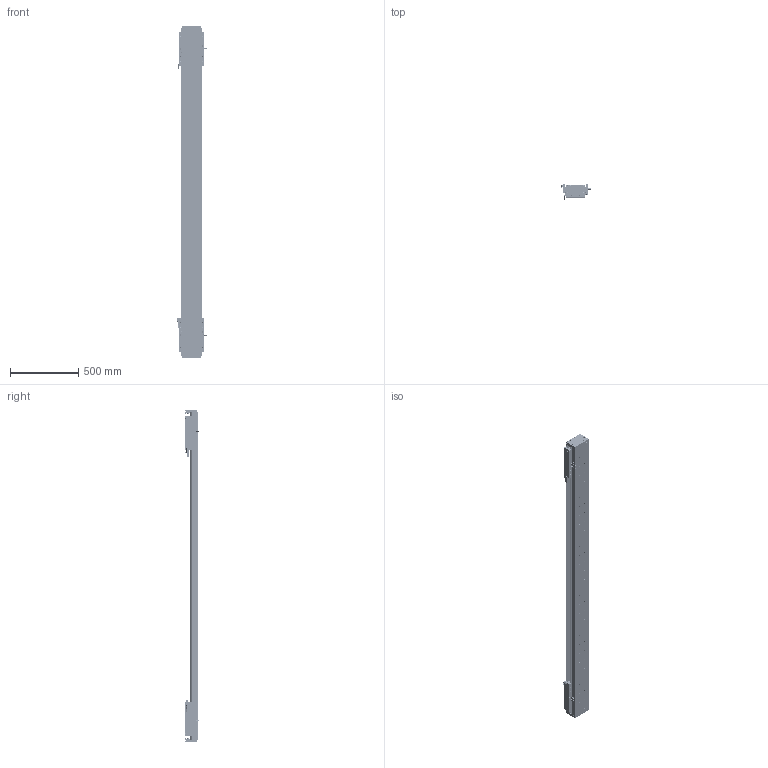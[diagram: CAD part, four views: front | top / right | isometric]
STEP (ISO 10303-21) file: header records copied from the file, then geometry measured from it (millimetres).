
FILE_DESCRIPTION (( 'STEP AP203' ), '1' );
FILE_NAME ('DA-C145-2-C3-T1820-C010-0.2 眻盄萇儂.STEP', '2025-08-13T10:24:29', ( '' ), ( '' ), 'SwSTEP 2.0', 'SolidWorks 2019', '' );
FILE_SCHEMA (( 'CONFIG_CONTROL_DESIGN' ));
Length unit declared in the file: millimetre
Products named in the file (38): 葩璃 PM-Y65^DA-C145-2-C3-T-C010-0.2; 复件 DA145-DG 钢带端盖^复件 CU145 钢带组件_DA-C145-2-C3-T-C010-0.2; 葩璃 DA95-HXJ-00 遣喳砎蝶^DA-C145-2-C3-T-C010-0.2; 葩璃 DA95-GT-T-00^IU-CU145-L 菁釱絳寢; DKW168-HXJ-ZJ-00 笢潔滅袉砎蝶; 葩璃 CKMA01-W060-TRL^DA-C145-2-C3-T-C010-0.2; IU-CU145-L 菁釱絳寢; 复件 半圆头内六角螺钉 M3×6^CU145-W 滚珠滑台; 复件 DA145-C3-YB-A-00 压板A^CU145-W 滚珠滑台; 葩璃 CKM03-W060-C1C2-TP-0.2^DA-C145-2-C3-T-C010-0.2; DKW-KGZ-ZJ-00 中间光电开关支架; TAY01-M8; CU145-W-00 珨极趙賑雄怢啣; 葩璃 XD-U-02L 棠掑喜^DA-C145-2-C3-T-C010-0.2; CU145-W 幗紩賑怢; 葩璃 DA145-C3-DP-A-00 菜えA^CU145-W 幗紩賑怢; DKW-GYP-ZJ-00 笢潔嫖萇覜茼え; 复件 DA95-DB-00  挡板^CU145-W 滚珠滑台; 复件 纯铜油杯 6x6mm^CU145-W 滚珠滑台; DA-C145-2-C3-T1820-C010-0.2 眻盄萇儂; 复件 DA95-HK-GT-00 滑块钢轨^CU145-W-00 一体化滑动台板; 葩璃 PM-T45^DA-C145-2-C3-T-C010-0.2; 66245-CU145-HT-W-00 賑雄怢啣(3D芞祧)(00); CU145-W 幗紩賑怢-1; 复件 DA145-GYP-00 光电感应片^DA-C145-2-C3-T-C010-0.2; 复件 内六角平端紧定螺钉 GB.T77-2000 M5×10^CU145-W 滚珠滑台; IU-CU145-L-00 菁釱(L2400); 葩璃 DMA-010-0.2 黍杅芛^DA-C145-2-C3-T-C010-0.2; 复件 DA145-C3-DK-00 挡块^CU145-W 滚珠滑台; 葩璃 DA145-C3-DP-B-00 菜えB^CU145-W 幗紩賑怢; 葩璃 鞠褒情蹟譫 M3^DA-C145-2-C3-T-C010-0.2; 葩璃 CU145 詩湍郪璃^DA-C145-2-C3-T-C010-0.2; 复件 DA146 钢带拉块^复件 CU145 钢带组件_DA-C145-2-C3-T-C010-0.2; 复件 DA95-MFP-01 密封片^CU145-W 滚珠滑台; 复件 DA146 钢带垫块^复件 CU145 钢带组件_DA-C145-2-C3-T-C010-0.2; CU145-W-00 珨极趙賑雄怢啣-1; 复件 DA145 钢带^复件 CU145 钢带组件_DA-C145-2-C3-T-C010-0.2; 复件 DA145-C3-YB-B-00 压板B^CU145-W 滚珠滑台
Assembly tree (180 placements, depth 4):
  DA-C145-2-C3-T1820-C010-0.2 眻盄萇儂
    IU-CU145-L 菁釱絳寢
      IU-CU145-L-00 菁釱(L2400)
      葩璃 DA95-GT-T-00^IU-CU145-L 菁釱絳寢  x4
    葩璃 CU145 詩湍郪璃^DA-C145-2-C3-T-C010-0.2
      复件 DA145-DG 钢带端盖^复件 CU145 钢带组件_DA-C145-2-C3-T-C010-0.2  x2
      复件 DA146 钢带拉块^复件 CU145 钢带组件_DA-C145-2-C3-T-C010-0.2  x2
      复件 DA146 钢带垫块^复件 CU145 钢带组件_DA-C145-2-C3-T-C010-0.2  x2
      复件 DA145 钢带^复件 CU145 钢带组件_DA-C145-2-C3-T-C010-0.2
    CU145-W 幗紩賑怢
      CU145-W-00 珨极趙賑雄怢啣
        66245-CU145-HT-W-00 賑雄怢啣(3D芞祧)(00)
        复件 DA95-HK-GT-00 滑块钢轨^CU145-W-00 一体化滑动台板  x8
      复件 DA95-MFP-01 密封片^CU145-W 滚珠滑台  x8
      复件 DA95-DB-00  挡板^CU145-W 滚珠滑台  x8
      复件 内六角平端紧定螺钉 GB.T77-2000 M5×10^CU145-W 滚珠滑台  x4
      复件 纯铜油杯 6x6mm^CU145-W 滚珠滑台  x4
      复件 半圆头内六角螺钉 M3×6^CU145-W 滚珠滑台  x16
      复件 DA145-C3-DK-00 挡块^CU145-W 滚珠滑台  x4
      葩璃 DA145-C3-DP-B-00 菜えB^CU145-W 幗紩賑怢  x2
      复件 DA145-C3-YB-B-00 压板B^CU145-W 滚珠滑台  x2
      葩璃 DA145-C3-DP-A-00 菜えA^CU145-W 幗紩賑怢  x3
      复件 DA145-C3-YB-A-00 压板A^CU145-W 滚珠滑台  x3
      TAY01-M8  x4
    CU145-W 幗紩賑怢-1
      CU145-W-00 珨极趙賑雄怢啣-1
        66245-CU145-HT-W-00 賑雄怢啣(3D芞祧)(00)
        复件 DA95-HK-GT-00 滑块钢轨^CU145-W-00 一体化滑动台板  x8
      复件 DA95-MFP-01 密封片^CU145-W 滚珠滑台  x8
      复件 DA95-DB-00  挡板^CU145-W 滚珠滑台  x8
      复件 内六角平端紧定螺钉 GB.T77-2000 M5×10^CU145-W 滚珠滑台  x4
      复件 纯铜油杯 6x6mm^CU145-W 滚珠滑台  x4
      复件 半圆头内六角螺钉 M3×6^CU145-W 滚珠滑台  x16
      复件 DA145-C3-DK-00 挡块^CU145-W 滚珠滑台  x4
      葩璃 DA145-C3-DP-B-00 菜えB^CU145-W 幗紩賑怢  x2
      复件 DA145-C3-YB-B-00 压板B^CU145-W 滚珠滑台  x2
      葩璃 DA145-C3-DP-A-00 菜えA^CU145-W 幗紩賑怢  x3
      复件 DA145-C3-YB-A-00 压板A^CU145-W 滚珠滑台  x3
      TAY01-M8  x4
    葩璃 CKMA01-W060-TRL^DA-C145-2-C3-T-C010-0.2
    葩璃 PM-T45^DA-C145-2-C3-T-C010-0.2  x4
    葩璃 XD-U-02L 棠掑喜^DA-C145-2-C3-T-C010-0.2
    葩璃 DA95-HXJ-00 遣喳砎蝶^DA-C145-2-C3-T-C010-0.2  x4
    葩璃 CKM03-W060-C1C2-TP-0.2^DA-C145-2-C3-T-C010-0.2  x2
    葩璃 DMA-010-0.2 黍杅芛^DA-C145-2-C3-T-C010-0.2  x2
    复件 DA145-GYP-00 光电感应片^DA-C145-2-C3-T-C010-0.2  x2
    DKW-GYP-ZJ-00 笢潔嫖萇覜茼え
    DKW-KGZ-ZJ-00 中间光电开关支架
    葩璃 PM-Y65^DA-C145-2-C3-T-C010-0.2
    葩璃 鞠褒情蹟譫 M3^DA-C145-2-C3-T-C010-0.2  x8
    DKW168-HXJ-ZJ-00 笢潔滅袉砎蝶
Bounding box: 213.7 x 108.45 x 2436 mm (x, y, z)
Volume: 13563404.8 mm3; surface area: 4252080.9 mm2
Topology: 175 solids, 239 shells, 7495 faces, 20175 edges, 12469 vertices
Faces by surface type: cylinder 3208, plane 2947, cone 1184, torus 140, sphere 8, bspline 8
Entity records: 135978 total; most frequent: CARTESIAN_POINT 38402, ORIENTED_EDGE 19036, DIRECTION 18327, EDGE_CURVE 9518, AXIS2_PLACEMENT_3D 6737, VERTEX_POINT 6168, LINE 4853, VECTOR 4853
